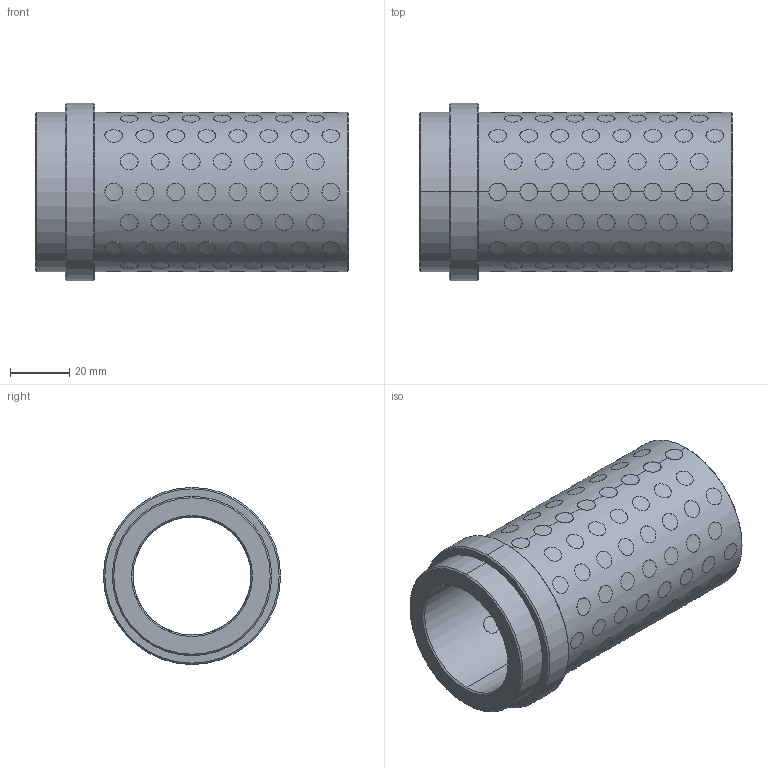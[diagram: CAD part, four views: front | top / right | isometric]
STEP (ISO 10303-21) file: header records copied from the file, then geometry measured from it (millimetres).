
FILE_DESCRIPTION((''),'2;1');
FILE_NAME('G31240096','2017-12-31T',('MANU'),(''),'PRO/ENGINEER BY PARAMETRIC TECHNOLOGY CORPORATION, 2012130','PRO/ENGINEER BY PARAMETRIC TECHNOLOGY CORPORATION, 2012130','');
FILE_SCHEMA(('CONFIG_CONTROL_DESIGN'));
Length unit declared in the file: millimetre
Products named in the file (1): G31240096
Bounding box: 106 x 60 x 60 mm (x, y, z)
Volume: 114415.5 mm3; surface area: 65902.6 mm2
Topology: 121 solids, 121 shells, 744 faces, 1584 edges, 1052 vertices
Faces by surface type: cylinder 728, cone 12, plane 4
Entity records: 38368 total; most frequent: CARTESIAN_POINT 23914, ORIENTED_EDGE 3168, DIRECTION 2076, EDGE_CURVE 1584, VERTEX_POINT 1052, B_SPLINE_CURVE_WITH_KNOTS 1024, EDGE_LOOP 956, AXIS2_PLACEMENT_3D 772
